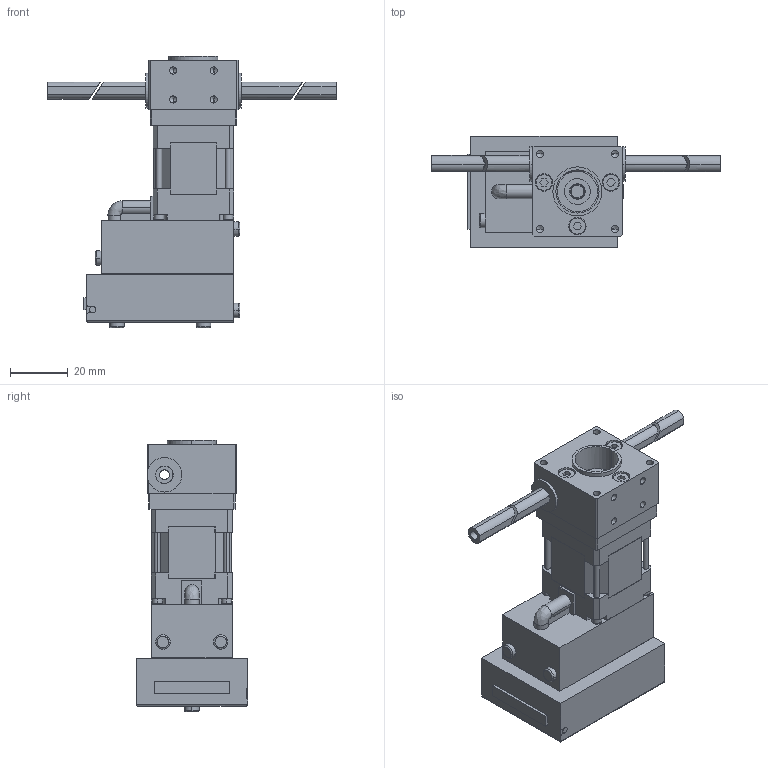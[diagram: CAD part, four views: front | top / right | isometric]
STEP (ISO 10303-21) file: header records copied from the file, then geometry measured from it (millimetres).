
FILE_DESCRIPTION (( 'STEP AP203' ), '1' );
FILE_NAME ('RRA-11.STEP', '2010-05-28T17:11:47', ( 'render' ), ( '' ), 'SwSTEP 2.0', 'SolidWorks 2009', '' );
FILE_SCHEMA (( 'CONFIG_CONTROL_DESIGN' ));
Length unit declared in the file: millimetre
Products named in the file (14): RRA-11; 4_0; 5_0; 6_0; 7_0; 8; 9; 10; 11; 12; Assem1; 1_0; 2_0; 3_0
Assembly tree (21 placements, depth 3):
  RRA-11
    10
    4_0  x4
    9
    3_0
    8
    Assem1
      2_0
      1_0
    7_0  x3
    12  x3
    6_0  x2
    11
    5_0
Bounding box: 100 x 38.7 x 94.15 mm (x, y, z)
Volume: 101231.3 mm3; surface area: 30805.8 mm2
Topology: 20 solids, 20 shells, 538 faces, 1295 edges, 818 vertices
Faces by surface type: plane 241, cylinder 218, cone 56, bspline 23
Entity records: 15796 total; most frequent: CARTESIAN_POINT 3705, DIRECTION 2204, ORIENTED_EDGE 2110, EDGE_CURVE 1055, AXIS2_PLACEMENT_3D 801, VERTEX_POINT 678, LINE 602, VECTOR 602
